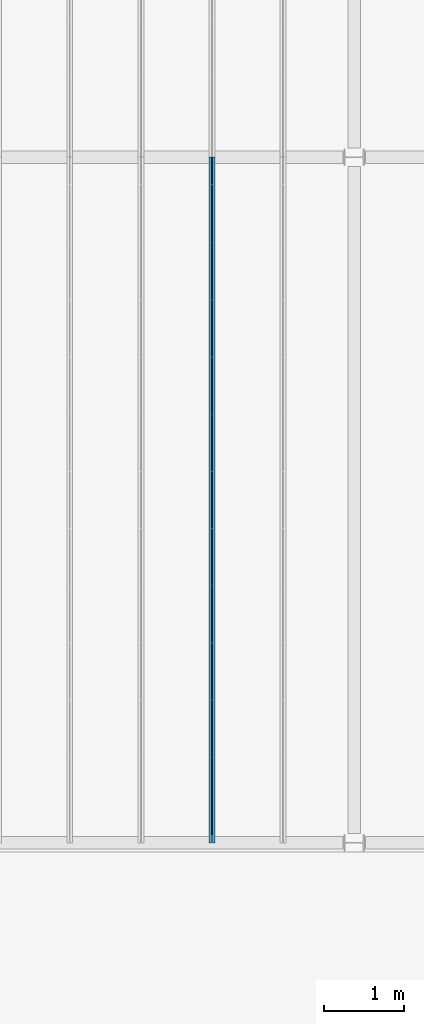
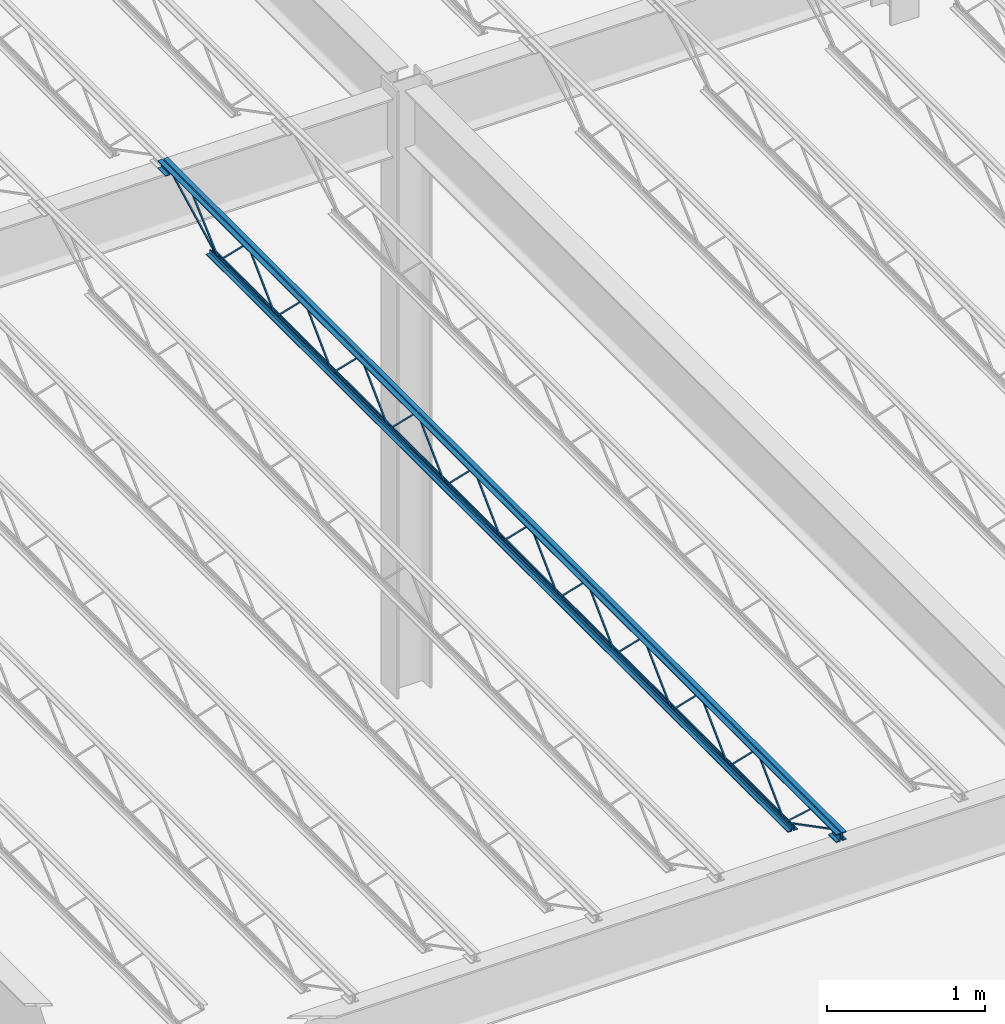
# One storey, part 38 of 119: 1 beam.
"""IFC2X3 building model written with IfcOpenShell, lengths in metres."""

from ifc_helpers import new_model, entity, si_unit, converted_unit, frame, origin, place, context, project, spatial, face_set, surface_model, element, save


model = new_model("IFC2X3")

# Units and contexts
model_context = context("Model", 3, precision=1e-09, world=origin())
plan_context = context("Plan", 3, precision=1e-09, world=origin())
ifc_project = project(units=[si_unit("LENGTHUNIT", "METRE"), si_unit("AREAUNIT", "SQUARE_METRE"), si_unit("VOLUMEUNIT", "CUBIC_METRE"), converted_unit("PLANEANGLEUNIT", "DEGREE", entity("IfcRatioMeasure", 0.01745329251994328), si_unit("PLANEANGLEUNIT", "RADIAN"), dimensions=[0, 0, 0, 0, 0, 0, 0]), si_unit("TIMEUNIT", "SECOND")], contexts=[model_context, plan_context])

# Site, building, storey
site_placement = place(None, origin())
site = spatial("IfcSite", under=ifc_project, at=site_placement, Name="Default", CompositionType="ELEMENT")
building_placement = place(site_placement, origin())
building = spatial("IfcBuilding", under=site, at=building_placement, CompositionType="ELEMENT")
storey_placement = place(building_placement, frame((0.0, 0.0, 4.570000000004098)))
storey = spatial("IfcBuildingStorey", under=building, at=storey_placement, Name="Second Floor", CompositionType="ELEMENT", Elevation=4.570000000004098)

# Beam
beam_placement = place(storey_placement, frame((-28.25425000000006, 10.04000000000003, 4.323999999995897), z_axis=(0.0, 0.0, 1.0), x_axis=(-1.0, 0.0, 0.0)))
element("IfcBeam", 1, at=beam_placement, inside=storey, Name="M_K-Series Bar Joist-Rod Web:14K1:14K1", ObjectType="M_K-Series Bar Joist-Rod Web:14K1", context=model_context, shape_type="SurfaceModel", body=[
    surface_model("IfcFaceBasedSurfaceModel", [(-0.03200000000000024, -2.141200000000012, 0.01110000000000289), (-0.04149999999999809, -2.141200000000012, 0.01110000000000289), (-0.04149999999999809, -2.141200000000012, 0.001600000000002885), (-0.03200000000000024, -2.141200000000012, 0.001600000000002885), (-0.04149999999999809, -2.139961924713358, 0.01110000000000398), (-0.03200000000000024, -2.139961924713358, 0.01110000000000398), (-0.04149999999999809, -2.136088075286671, 0.001600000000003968), (-0.04149999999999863, -1.785138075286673, 0.3449000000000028), (-0.04149999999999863, -1.782661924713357, 0.3449000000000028), (-0.04149999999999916, -1.431711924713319, 0.001600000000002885), (-0.04149999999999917, -1.426600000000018, 0.001600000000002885), (-0.04149999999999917, -1.426600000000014, 0.01110000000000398), (-0.04149999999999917, -1.427838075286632, 0.01110000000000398), (-0.04149999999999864, -1.77878807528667, 0.3544000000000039), (-0.04149999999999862, -1.78901192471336, 0.3544000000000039), (-0.03199999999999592, -2.136088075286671, 0.001600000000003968), (-0.03200000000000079, -1.785138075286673, 0.3449000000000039), (-0.03200000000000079, -1.782661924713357, 0.3449000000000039), (-0.03200000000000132, -1.431711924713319, 0.001600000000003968), (-0.03200000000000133, -1.426600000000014, 0.001600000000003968), (-0.03200000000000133, -1.426600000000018, 0.01110000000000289), (-0.03200000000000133, -1.427838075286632, 0.01110000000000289), (-0.03200000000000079, -1.77878807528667, 0.3544000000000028), (-0.03200000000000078, -1.78901192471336, 0.3544000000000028), (-0.03199999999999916, -2.855800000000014, 0.01110000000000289), (-0.04149999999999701, -2.855800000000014, 0.01110000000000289), (-0.04149999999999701, -2.855800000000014, 0.001600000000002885), (-0.03199999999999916, -2.855800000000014, 0.001600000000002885), (-0.04149999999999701, -2.854561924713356, 0.01110000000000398), (-0.03199999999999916, -2.854561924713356, 0.01110000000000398), (-0.04149999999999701, -2.850688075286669, 0.001600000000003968), (-0.04149999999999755, -2.499738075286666, 0.3449000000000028), (-0.04149999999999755, -2.497261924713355, 0.3449000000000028), (-0.04149999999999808, -2.146311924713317, 0.001600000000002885), (-0.04149999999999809, -2.141200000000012, 0.01110000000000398), (-0.04149999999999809, -2.14243807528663, 0.01110000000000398), (-0.04149999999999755, -2.493388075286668, 0.3544000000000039), (-0.04149999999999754, -2.503611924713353, 0.3544000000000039), (-0.03199999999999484, -2.850688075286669, 0.001600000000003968), (-0.0319999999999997, -2.499738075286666, 0.3449000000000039), (-0.0319999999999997, -2.497261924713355, 0.3449000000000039), (-0.03200000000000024, -2.146311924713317, 0.001600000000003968), (-0.03200000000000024, -2.141200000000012, 0.001600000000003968), (-0.03200000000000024, -2.14243807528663, 0.01110000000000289), (-0.03199999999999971, -2.493388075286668, 0.3544000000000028), (-0.0319999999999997, -2.503611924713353, 0.3544000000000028), (-0.03200000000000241, -3.570400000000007, 0.01110000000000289), (-0.04150000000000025, -3.570400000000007, 0.01110000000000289), (-0.04150000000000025, -3.570400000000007, 0.001600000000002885), (-0.03200000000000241, -3.570400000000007, 0.001600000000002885), (-0.04150000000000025, -3.569161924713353, 0.01110000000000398), (-0.03200000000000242, -3.569161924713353, 0.01110000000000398), (-0.04150000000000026, -3.565288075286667, 0.001600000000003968), (-0.04150000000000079, -3.214338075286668, 0.3449000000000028), (-0.04150000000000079, -3.211861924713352, 0.3449000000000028), (-0.04150000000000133, -2.860911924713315, 0.001600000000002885), (-0.04149999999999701, -2.855800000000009, 0.001600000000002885), (-0.04150000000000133, -2.855800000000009, 0.01110000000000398), (-0.04150000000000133, -2.857038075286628, 0.01110000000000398), (-0.0415000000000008, -3.207988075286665, 0.3544000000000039), (-0.04150000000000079, -3.218211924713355, 0.3544000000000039), (-0.03199999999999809, -3.565288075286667, 0.001600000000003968), (-0.03200000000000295, -3.214338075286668, 0.3449000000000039), (-0.03200000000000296, -3.211861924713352, 0.3449000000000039), (-0.03200000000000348, -2.860911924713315, 0.001600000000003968), (-0.03200000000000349, -2.855800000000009, 0.001600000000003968), (-0.03199999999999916, -2.855800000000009, 0.01110000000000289), (-0.03200000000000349, -2.857038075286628, 0.01110000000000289), (-0.03200000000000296, -3.207988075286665, 0.3544000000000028), (-0.03200000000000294, -3.218211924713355, 0.3544000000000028), (-0.03200000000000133, -4.285000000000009, 0.01110000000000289), (-0.04149999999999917, -4.285000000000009, 0.01110000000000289), (-0.04149999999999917, -4.285000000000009, 0.001600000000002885), (-0.03200000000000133, -4.285000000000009, 0.001600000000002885), (-0.04149999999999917, -4.283761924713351, 0.01110000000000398), (-0.03200000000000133, -4.283761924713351, 0.01110000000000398), (-0.04149999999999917, -4.279888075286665, 0.001600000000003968), (-0.0414999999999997, -3.928938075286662, 0.3449000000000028), (-0.04149999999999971, -3.92646192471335, 0.3449000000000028), (-0.04150000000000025, -3.575511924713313, 0.001600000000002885), (-0.04150000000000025, -3.570400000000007, 0.01110000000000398), (-0.04150000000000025, -3.571638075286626, 0.01110000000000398), (-0.04149999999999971, -3.922588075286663, 0.3544000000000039), (-0.0414999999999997, -3.932811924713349, 0.3544000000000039), (-0.031999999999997, -4.279888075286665, 0.001600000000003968), (-0.03200000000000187, -3.928938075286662, 0.3449000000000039), (-0.03200000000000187, -3.92646192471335, 0.3449000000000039), (-0.0320000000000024, -3.575511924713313, 0.001600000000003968), (-0.03200000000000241, -3.570400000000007, 0.001600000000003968), (-0.03200000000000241, -3.571638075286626, 0.01110000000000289), (-0.03200000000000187, -3.922588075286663, 0.3544000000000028), (-0.03200000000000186, -3.932811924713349, 0.3544000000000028), (-0.03200000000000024, -4.999600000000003, 0.01110000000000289), (-0.04149999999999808, -4.999600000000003, 0.01110000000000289), (-0.04149999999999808, -4.999600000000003, 0.001600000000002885), (-0.03200000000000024, -4.999600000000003, 0.001600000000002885), (-0.04149999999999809, -4.998361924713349, 0.01110000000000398), (-0.03200000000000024, -4.998361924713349, 0.01110000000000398), (-0.04149999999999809, -4.994488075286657, 0.001600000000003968), (-0.04149999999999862, -4.643538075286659, 0.3449000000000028), (-0.04149999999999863, -4.641061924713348, 0.3449000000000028), (-0.04149999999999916, -4.290111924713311, 0.001600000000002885), (-0.04149999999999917, -4.285000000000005, 0.001600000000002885), (-0.04149999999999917, -4.285000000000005, 0.01110000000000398), (-0.04149999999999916, -4.286238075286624, 0.01110000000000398), (-0.04149999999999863, -4.637188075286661, 0.3544000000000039), (-0.04149999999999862, -4.647411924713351, 0.3544000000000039), (-0.03199999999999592, -4.994488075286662, 0.001600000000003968), (-0.03200000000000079, -4.643538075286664, 0.3449000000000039), (-0.03200000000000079, -4.641061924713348, 0.3449000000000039), (-0.03200000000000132, -4.290111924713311, 0.001600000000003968), (-0.03200000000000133, -4.285000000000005, 0.001600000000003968), (-0.03200000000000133, -4.285000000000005, 0.01110000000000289), (-0.03200000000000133, -4.286238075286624, 0.01110000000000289), (-0.03200000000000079, -4.637188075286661, 0.3544000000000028), (-0.03200000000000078, -4.647411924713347, 0.3544000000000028), (-0.03200000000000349, -5.714200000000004, 0.01110000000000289), (-0.04150000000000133, -5.714200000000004, 0.01110000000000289), (-0.04150000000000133, -5.714200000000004, 0.001600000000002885), (-0.03200000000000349, -5.714200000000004, 0.001600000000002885), (-0.04150000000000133, -5.712961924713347, 0.01110000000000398), (-0.03200000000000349, -5.712961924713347, 0.01110000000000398), (-0.04149999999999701, -5.70908807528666, 0.001600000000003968), (-0.04149999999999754, -5.358138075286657, 0.3449000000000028), (-0.04149999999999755, -5.355661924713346, 0.3449000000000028), (-0.04149999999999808, -5.004711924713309, 0.001600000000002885), (-0.04150000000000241, -4.999600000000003, 0.01110000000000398), (-0.04150000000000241, -5.000838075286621, 0.01110000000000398), (-0.04150000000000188, -5.351788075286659, 0.3544000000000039), (-0.04150000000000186, -5.362011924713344, 0.3544000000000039), (-0.03199999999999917, -5.70908807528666, 0.001600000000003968), (-0.03200000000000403, -5.358138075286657, 0.3449000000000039), (-0.03200000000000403, -5.355661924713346, 0.3449000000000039), (-0.03200000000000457, -5.004711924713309, 0.001600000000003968), (-0.03200000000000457, -4.999600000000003, 0.001600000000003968), (-0.03200000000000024, -5.000838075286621, 0.01110000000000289), (-0.03199999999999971, -5.351788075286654, 0.3544000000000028), (-0.0319999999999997, -5.362011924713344, 0.3544000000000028), (-0.03200000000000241, -6.428799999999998, 0.01110000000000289), (-0.04150000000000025, -6.428799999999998, 0.01110000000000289), (-0.04150000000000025, -6.428799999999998, 0.001600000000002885), (-0.03200000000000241, -6.428799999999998, 0.001600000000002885), (-0.04150000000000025, -6.42756192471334, 0.01110000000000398), (-0.03200000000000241, -6.42756192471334, 0.01110000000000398), (-0.04150000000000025, -6.423688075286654, 0.001600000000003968), (-0.04150000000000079, -6.072738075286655, 0.3449000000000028), (-0.04150000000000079, -6.070261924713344, 0.3449000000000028), (-0.04150000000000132, -5.719311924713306, 0.001600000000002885), (-0.04150000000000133, -5.714199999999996, 0.001600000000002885), (-0.04150000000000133, -5.714199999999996, 0.01110000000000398), (-0.04150000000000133, -5.715438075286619, 0.01110000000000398), (-0.04150000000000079, -6.066388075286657, 0.3544000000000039), (-0.04150000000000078, -6.076611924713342, 0.3544000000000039), (-0.03199999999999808, -6.423688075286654, 0.001600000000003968), (-0.03200000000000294, -6.072738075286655, 0.3449000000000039), (-0.03200000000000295, -6.070261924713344, 0.3449000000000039), (-0.03200000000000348, -5.719311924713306, 0.001600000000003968), (-0.03200000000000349, -5.714199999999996, 0.001600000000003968), (-0.03200000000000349, -5.714199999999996, 0.01110000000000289), (-0.03200000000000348, -5.715438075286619, 0.01110000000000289), (-0.03200000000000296, -6.066388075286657, 0.3544000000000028), (-0.03200000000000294, -6.076611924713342, 0.3544000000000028), (-0.03200000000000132, -7.143399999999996, 0.01110000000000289), (-0.04149999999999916, -7.143399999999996, 0.01110000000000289), (-0.04149999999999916, -7.143399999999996, 0.001600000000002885), (-0.03200000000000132, -7.143399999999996, 0.001600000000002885), (-0.04149999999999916, -7.142161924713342, 0.01110000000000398), (-0.03200000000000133, -7.142161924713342, 0.01110000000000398), (-0.04149999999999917, -7.138288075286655, 0.001600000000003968), (-0.0414999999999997, -6.787338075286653, 0.3449000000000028), (-0.0414999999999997, -6.784861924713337, 0.3449000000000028), (-0.04150000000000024, -6.4339119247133, 0.001600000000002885), (-0.04150000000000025, -6.428799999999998, 0.01110000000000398), (-0.04150000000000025, -6.430038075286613, 0.01110000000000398), (-0.04149999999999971, -6.780988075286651, 0.3544000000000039), (-0.0414999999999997, -6.79121192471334, 0.3544000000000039), (-0.031999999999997, -7.138288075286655, 0.001600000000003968), (-0.03200000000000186, -6.787338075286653, 0.3449000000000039), (-0.03200000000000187, -6.784861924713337, 0.3449000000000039), (-0.0320000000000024, -6.4339119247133, 0.001600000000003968), (-0.03200000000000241, -6.428799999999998, 0.001600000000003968), (-0.0320000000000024, -6.430038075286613, 0.01110000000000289), (-0.03200000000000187, -6.780988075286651, 0.3544000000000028), (-0.03200000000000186, -6.79121192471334, 0.3544000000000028), (-0.03200000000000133, -1.426600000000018, 0.01109999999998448), (-0.04149999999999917, -1.426600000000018, 0.01109999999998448), (-0.04149999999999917, -1.426600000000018, 0.001599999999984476), (-0.03200000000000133, -1.426600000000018, 0.001599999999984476), (-0.04149999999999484, -1.42536192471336, 0.01109999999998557), (-0.031999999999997, -1.42536192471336, 0.01109999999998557), (-0.04149999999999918, -1.421488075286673, 0.001599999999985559), (-0.04149999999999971, -1.07053807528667, 0.3448999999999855), (-0.04149999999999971, -1.068061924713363, 0.3448999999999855), (-0.04150000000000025, -0.7171119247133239, 0.001599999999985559), (-0.04150000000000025, -0.712000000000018, 0.001599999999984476), (-0.04150000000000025, -0.7120000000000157, 0.01109999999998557), (-0.04150000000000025, -0.7132380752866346, 0.01109999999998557), (-0.04149999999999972, -1.064188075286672, 0.3543999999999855), (-0.0414999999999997, -1.074411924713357, 0.3543999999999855), (-0.031999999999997, -1.421488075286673, 0.001599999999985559), (-0.03199999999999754, -1.07053807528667, 0.3448999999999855), (-0.03199999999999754, -1.068061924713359, 0.3448999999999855), (-0.03199999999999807, -0.7171119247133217, 0.001599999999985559), (-0.03199999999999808, -0.7120000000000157, 0.001599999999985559), (-0.03200000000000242, -0.712000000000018, 0.01109999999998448), (-0.03199999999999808, -0.7132380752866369, 0.01109999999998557), (-0.03199999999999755, -1.064188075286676, 0.3543999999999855), (-0.03199999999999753, -1.074411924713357, 0.3543999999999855), (-0.03200000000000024, -7.857999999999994, 0.01110000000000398), (-0.04149999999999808, -7.857999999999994, 0.01110000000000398), (-0.04149999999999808, -7.857999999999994, 0.001600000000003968), (-0.03200000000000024, -7.857999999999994, 0.001600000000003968), (-0.04149999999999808, -7.856761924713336, 0.01110000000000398), (-0.03200000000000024, -7.856761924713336, 0.01110000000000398), (-0.04149999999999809, -7.852888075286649, 0.001600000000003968), (-0.04149999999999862, -7.501938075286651, 0.3449000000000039), (-0.04149999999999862, -7.499461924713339, 0.3449000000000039), (-0.04149999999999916, -7.148511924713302, 0.001600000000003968), (-0.04149999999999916, -7.143399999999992, 0.001600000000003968), (-0.04149999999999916, -7.143399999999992, 0.01110000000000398), (-0.04149999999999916, -7.144638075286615, 0.01110000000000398), (-0.04149999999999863, -7.495588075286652, 0.3544000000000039), (-0.04149999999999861, -7.505811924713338, 0.3544000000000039), (-0.03199999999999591, -7.852888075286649, 0.001600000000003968), (-0.03200000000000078, -7.501938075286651, 0.3449000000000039), (-0.03200000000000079, -7.499461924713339, 0.3449000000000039), (-0.03200000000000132, -7.148511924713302, 0.001600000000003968), (-0.03200000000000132, -7.143399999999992, 0.001600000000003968), (-0.03200000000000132, -7.143399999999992, 0.01110000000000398), (-0.03200000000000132, -7.144638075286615, 0.01110000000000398), (-0.03200000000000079, -7.495588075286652, 0.3544000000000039), (-0.03200000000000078, -7.505811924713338, 0.3544000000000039), (-0.04150000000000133, 0.0, 0.3559999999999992), (-0.07350000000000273, 0.0, 0.3559999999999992), (-0.07350000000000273, 0.0, 0.3494999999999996), (-0.04799999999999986, 0.0, 0.3494999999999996), (-0.04799999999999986, 0.0, 0.3239999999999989), (-0.04150000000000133, 0.0, 0.3239999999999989), (-0.03200000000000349, 0.0, 0.3559999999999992), (-0.03200000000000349, 0.0, 0.3239999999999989), (-0.02550000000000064, 0.0, 0.3239999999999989), (-0.02550000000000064, 0.0, 0.3494999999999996), (0.0, 0.0, 0.3494999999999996), (0.0, 0.0, 0.3559999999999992), (-0.04149999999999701, -8.569999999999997, 0.3559999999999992), (-0.07349999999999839, -8.569999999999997, 0.3559999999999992), (-0.07349999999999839, -8.569999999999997, 0.3494999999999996), (-0.04799999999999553, -8.569999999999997, 0.3494999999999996), (-0.04799999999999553, -8.569999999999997, 0.3239999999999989), (-0.04149999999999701, -8.569999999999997, 0.3239999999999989), (-0.03199999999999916, -8.569999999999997, 0.3559999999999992), (-0.03199999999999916, -8.569999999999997, 0.3239999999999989), (-0.02549999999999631, -8.569999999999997, 0.3239999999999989), (-0.02549999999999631, -8.569999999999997, 0.3494999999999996), (0.0, -8.569999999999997, 0.3494999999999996), (0.0, -8.569999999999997, 0.3559999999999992), (-0.03199999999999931, -8.470000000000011, 0.2924999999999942), (0.0, -8.470000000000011, 0.2924999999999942), (0.0, -8.470000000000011, 0.2989999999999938), (-0.02550000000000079, -8.470000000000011, 0.2989999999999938), (-0.02550000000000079, -8.470000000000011, 0.3239999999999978), (-0.03199999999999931, -8.470000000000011, 0.3239999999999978), (-0.07349999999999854, -8.470000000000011, 0.2924999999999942), (-0.04149999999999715, -8.470000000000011, 0.2924999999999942), (-0.04149999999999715, -8.470000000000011, 0.3239999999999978), (-0.048, -8.470000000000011, 0.3239999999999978), (-0.048, -8.470000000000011, 0.2989999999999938), (-0.07349999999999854, -8.470000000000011, 0.2989999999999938), (-0.03199999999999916, -8.569999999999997, 0.2924999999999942), (0.0, -8.569999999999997, 0.2924999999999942), (0.0, -8.569999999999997, 0.2989999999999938), (-0.02550000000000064, -8.569999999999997, 0.2989999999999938), (-0.02550000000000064, -8.569999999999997, 0.3239999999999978), (-0.03199999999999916, -8.569999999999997, 0.3239999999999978), (-0.07349999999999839, -8.569999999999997, 0.2924999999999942), (-0.04149999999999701, -8.569999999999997, 0.2924999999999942), (-0.04149999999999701, -8.569999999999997, 0.3239999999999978), (-0.04799999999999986, -8.569999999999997, 0.3239999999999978), (-0.04799999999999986, -8.569999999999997, 0.2989999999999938), (-0.07349999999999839, -8.569999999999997, 0.2989999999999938), (-0.04150000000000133, 0.0, 0.2924999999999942), (-0.04150000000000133, 0.0, 0.3239999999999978), (-0.04800000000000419, 0.0, 0.3239999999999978), (-0.04800000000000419, 0.0, 0.2989999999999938), (-0.07350000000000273, 0.0, 0.2989999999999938), (-0.07350000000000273, 0.0, 0.2924999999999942), (-0.03200000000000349, 0.0, 0.2924999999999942), (0.0, 0.0, 0.2924999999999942), (0.0, 0.0, 0.2989999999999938), (-0.02550000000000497, 0.0, 0.2989999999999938), (-0.02550000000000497, 0.0, 0.3239999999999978), (-0.03200000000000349, 0.0, 0.3239999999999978), (-0.04150000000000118, -0.09999999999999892, 0.2924999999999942), (-0.04150000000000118, -0.09999999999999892, 0.3239999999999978), (-0.04800000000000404, -0.09999999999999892, 0.3239999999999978), (-0.04800000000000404, -0.09999999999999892, 0.2989999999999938), (-0.07350000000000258, -0.09999999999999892, 0.2989999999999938), (-0.07350000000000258, -0.09999999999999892, 0.2924999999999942), (-0.03200000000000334, -0.09999999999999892, 0.2924999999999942), (0.0, -0.09999999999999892, 0.2924999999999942), (0.0, -0.09999999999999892, 0.2989999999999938), (-0.02550000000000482, -0.09999999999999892, 0.2989999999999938), (-0.02550000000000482, -0.09999999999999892, 0.3239999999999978), (-0.03200000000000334, -0.09999999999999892, 0.3239999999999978), (-0.04150000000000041, -0.6119999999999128, 0.0), (-0.04150000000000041, -0.6119999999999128, 0.03199999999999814), (-0.04799999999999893, -0.6119999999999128, 0.03199999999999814), (-0.04799999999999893, -0.6119999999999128, 0.006499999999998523), (-0.0735000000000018, -0.6119999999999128, 0.006499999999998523), (-0.0735000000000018, -0.6119999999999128, 0.0), (-0.03200000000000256, -0.6119999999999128, 0.0), (0.0, -0.6119999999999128, 0.0), (0.0, -0.6119999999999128, 0.006499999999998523), (-0.02549999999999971, -0.6119999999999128, 0.006499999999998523), (-0.02549999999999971, -0.6119999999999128, 0.03199999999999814), (-0.03200000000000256, -0.6119999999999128, 0.03199999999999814), (-0.04149999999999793, -7.957999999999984, 0.0), (-0.04149999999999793, -7.957999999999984, 0.03199999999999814), (-0.04799999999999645, -7.957999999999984, 0.03199999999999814), (-0.04799999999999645, -7.957999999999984, 0.006499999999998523), (-0.07349999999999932, -7.957999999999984, 0.006499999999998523), (-0.07349999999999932, -7.957999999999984, 0.0), (-0.03200000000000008, -7.957999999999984, 0.0), (0.0, -7.957999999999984, 0.0), (0.0, -7.957999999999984, 0.006499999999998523), (-0.02549999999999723, -7.957999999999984, 0.006499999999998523), (-0.02549999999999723, -7.957999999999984, 0.03199999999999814), (-0.03200000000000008, -7.957999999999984, 0.03199999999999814), (-0.03200000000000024, -7.855811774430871, 0.01056594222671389), (-0.04149999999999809, -7.855811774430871, 0.01056594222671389), (-0.04149999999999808, -7.860188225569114, 0.002134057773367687), (-0.03200000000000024, -7.860188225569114, 0.00213405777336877), (-0.03199999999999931, -8.468840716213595, 0.3287499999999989), (-0.03199999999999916, -8.569999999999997, 0.3287499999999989), (-0.03199999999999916, -8.569999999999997, 0.3192499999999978), (-0.03199999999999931, -8.471159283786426, 0.3192499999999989), (-0.04150000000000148, -8.471159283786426, 0.3192499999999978), (-0.04149999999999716, -8.468840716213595, 0.3287499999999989), (-0.04149999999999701, -8.569999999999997, 0.3287499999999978), (-0.04149999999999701, -8.569999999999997, 0.3192499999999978), (-0.03199999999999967, -8.23525714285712, 0.3417000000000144), (-0.04149999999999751, -8.23525714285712, 0.3417000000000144), (-0.04149999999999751, -8.23525714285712, 0.3322000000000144), (-0.03199999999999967, -8.23525714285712, 0.3322000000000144), (-0.04149999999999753, -8.22072410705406, 0.3417000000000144), (-0.03199999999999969, -8.22072410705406, 0.3417000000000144), (-0.04149999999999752, -8.224390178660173, 0.3322000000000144), (-0.04149999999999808, -7.861190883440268, 0.002831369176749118), (-0.04149999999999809, -7.854809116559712, 0.009868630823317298), (-0.03199999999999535, -8.224390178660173, 0.3322000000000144), (-0.03200000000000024, -7.861190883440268, 0.002831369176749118), (-0.03200000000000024, -7.854809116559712, 0.009868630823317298), (-0.03200000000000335, -0.09781177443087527, 0.3197840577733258), (-0.03200000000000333, -0.1021882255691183, 0.328215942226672), (-0.04150000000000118, -0.1021882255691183, 0.328215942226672), (-0.04150000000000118, -0.09781177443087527, 0.3197840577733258), (-0.03200000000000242, -0.7098117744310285, 0.002134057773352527), (-0.03200000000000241, -0.7141882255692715, 0.01056594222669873), (-0.04150000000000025, -0.7141882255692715, 0.01056594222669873), (-0.04150000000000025, -0.7098117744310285, 0.002134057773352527), (-0.03200000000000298, -0.3369634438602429, 0.3461600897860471), (-0.03200000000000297, -0.3434079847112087, 0.3531399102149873), (-0.04150000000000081, -0.3434079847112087, 0.3531399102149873), (-0.04150000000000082, -0.3369634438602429, 0.3461600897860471), (-0.03200000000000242, -0.7087777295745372, 0.00286008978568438), (-0.03200000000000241, -0.7152222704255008, 0.009839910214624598), (-0.04150000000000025, -0.7152222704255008, 0.009839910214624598), (-0.04150000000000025, -0.7087777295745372, 0.00286008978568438)], [face_set([[[0, 1, 2, 3]], [[1, 4, 5, 0]], [[2, 6, 7, 8, 9, 10, 11, 12, 13, 14, 4, 1]], [[3, 2, 6, 15]], [[0, 3, 15, 16, 17, 18, 19, 20, 21, 22, 23, 5]], [[4, 5, 23, 14]], [[15, 16, 7, 6]], [[14, 13, 22, 23]], [[16, 7, 8, 17]], [[13, 12, 21, 22]], [[17, 8, 9, 18]], [[20, 11, 10, 19]], [[12, 11, 20, 21]], [[18, 9, 10, 19]]]), face_set([[[24, 25, 26, 27]], [[25, 28, 29, 24]], [[26, 30, 31, 32, 33, 2, 34, 35, 36, 37, 28, 25]], [[27, 26, 30, 38]], [[24, 27, 38, 39, 40, 41, 42, 0, 43, 44, 45, 29]], [[28, 29, 45, 37]], [[38, 39, 31, 30]], [[37, 36, 44, 45]], [[39, 31, 32, 40]], [[36, 35, 43, 44]], [[40, 32, 33, 41]], [[0, 34, 2, 42]], [[35, 34, 0, 43]], [[41, 33, 2, 42]]]), face_set([[[46, 47, 48, 49]], [[47, 50, 51, 46]], [[48, 52, 53, 54, 55, 56, 57, 58, 59, 60, 50, 47]], [[49, 48, 52, 61]], [[46, 49, 61, 62, 63, 64, 65, 66, 67, 68, 69, 51]], [[50, 51, 69, 60]], [[61, 62, 53, 52]], [[60, 59, 68, 69]], [[62, 53, 54, 63]], [[59, 58, 67, 68]], [[63, 54, 55, 64]], [[66, 57, 56, 65]], [[58, 57, 66, 67]], [[64, 55, 56, 65]]]), face_set([[[70, 71, 72, 73]], [[71, 74, 75, 70]], [[72, 76, 77, 78, 79, 48, 80, 81, 82, 83, 74, 71]], [[73, 72, 76, 84]], [[70, 73, 84, 85, 86, 87, 88, 46, 89, 90, 91, 75]], [[74, 75, 91, 83]], [[84, 85, 77, 76]], [[83, 82, 90, 91]], [[85, 77, 78, 86]], [[82, 81, 89, 90]], [[86, 78, 79, 87]], [[46, 80, 48, 88]], [[81, 80, 46, 89]], [[87, 79, 48, 88]]]), face_set([[[92, 93, 94, 95]], [[93, 96, 97, 92]], [[94, 98, 99, 100, 101, 102, 103, 104, 105, 106, 96, 93]], [[95, 94, 98, 107]], [[92, 95, 107, 108, 109, 110, 111, 112, 113, 114, 115, 97]], [[96, 97, 115, 106]], [[107, 108, 99, 98]], [[106, 105, 114, 115]], [[108, 99, 100, 109]], [[105, 104, 113, 114]], [[109, 100, 101, 110]], [[112, 103, 102, 111]], [[104, 103, 112, 113]], [[110, 101, 102, 111]]]), face_set([[[116, 117, 118, 119]], [[117, 120, 121, 116]], [[118, 122, 123, 124, 125, 94, 126, 127, 128, 129, 120, 117]], [[119, 118, 122, 130]], [[116, 119, 130, 131, 132, 133, 134, 92, 135, 136, 137, 121]], [[120, 121, 137, 129]], [[130, 131, 123, 122]], [[129, 128, 136, 137]], [[131, 123, 124, 132]], [[128, 127, 135, 136]], [[132, 124, 125, 133]], [[92, 126, 94, 134]], [[127, 126, 92, 135]], [[133, 125, 94, 134]]]), face_set([[[138, 139, 140, 141]], [[139, 142, 143, 138]], [[140, 144, 145, 146, 147, 148, 149, 150, 151, 152, 142, 139]], [[141, 140, 144, 153]], [[138, 141, 153, 154, 155, 156, 157, 158, 159, 160, 161, 143]], [[142, 143, 161, 152]], [[153, 154, 145, 144]], [[152, 151, 160, 161]], [[154, 145, 146, 155]], [[151, 150, 159, 160]], [[155, 146, 147, 156]], [[158, 149, 148, 157]], [[150, 149, 158, 159]], [[156, 147, 148, 157]]]), face_set([[[162, 163, 164, 165]], [[163, 166, 167, 162]], [[164, 168, 169, 170, 171, 140, 172, 173, 174, 175, 166, 163]], [[165, 164, 168, 176]], [[162, 165, 176, 177, 178, 179, 180, 138, 181, 182, 183, 167]], [[166, 167, 183, 175]], [[176, 177, 169, 168]], [[175, 174, 182, 183]], [[177, 169, 170, 178]], [[174, 173, 181, 182]], [[178, 170, 171, 179]], [[138, 172, 140, 180]], [[173, 172, 138, 181]], [[179, 171, 140, 180]]]), face_set([[[184, 185, 186, 187]], [[185, 188, 189, 184]], [[186, 190, 191, 192, 193, 194, 195, 196, 197, 198, 188, 185]], [[187, 186, 190, 199]], [[184, 187, 199, 200, 201, 202, 203, 204, 205, 206, 207, 189]], [[188, 189, 207, 198]], [[199, 200, 191, 190]], [[198, 197, 206, 207]], [[200, 191, 192, 201]], [[197, 196, 205, 206]], [[201, 192, 193, 202]], [[204, 195, 194, 203]], [[196, 195, 204, 205]], [[202, 193, 194, 203]]]), face_set([[[208, 209, 210, 211]], [[209, 212, 213, 208]], [[210, 214, 215, 216, 217, 218, 219, 220, 221, 222, 212, 209]], [[211, 210, 214, 223]], [[208, 211, 223, 224, 225, 226, 227, 228, 229, 230, 231, 213]], [[212, 213, 231, 222]], [[223, 224, 215, 214]], [[222, 221, 230, 231]], [[224, 215, 216, 225]], [[221, 220, 229, 230]], [[225, 216, 217, 226]], [[228, 219, 218, 227]], [[220, 219, 228, 229]], [[226, 217, 218, 227]]]), face_set([[[232, 233, 234, 235, 236, 237]], [[238, 239, 240, 241, 242, 243]], [[244, 245, 246, 247, 248, 249]], [[250, 251, 252, 253, 254, 255]], [[237, 232, 244, 249]], [[236, 237, 249, 248]], [[235, 247, 248, 236]], [[234, 235, 247, 246]], [[233, 245, 246, 234]], [[232, 244, 245, 233]], [[243, 255, 250, 238]], [[242, 243, 255, 254]], [[241, 242, 254, 253]], [[240, 241, 253, 252]], [[239, 240, 252, 251]], [[238, 250, 251, 239]]]), face_set([[[256, 257, 258, 259, 260, 261]], [[262, 263, 264, 265, 266, 267]], [[268, 269, 270, 271, 272, 273]], [[274, 275, 276, 277, 278, 279]], [[261, 273, 268, 256]], [[260, 272, 273, 261]], [[259, 260, 272, 271]], [[258, 270, 271, 259]], [[257, 258, 270, 269]], [[256, 257, 269, 268]], [[267, 279, 274, 262]], [[266, 278, 279, 267]], [[265, 277, 278, 266]], [[264, 276, 277, 265]], [[263, 264, 276, 275]], [[262, 263, 275, 274]]]), face_set([[[280, 281, 282, 283, 284, 285]], [[286, 287, 288, 289, 290, 291]], [[292, 293, 294, 295, 296, 297]], [[298, 299, 300, 301, 302, 303]], [[285, 280, 292, 297]], [[284, 296, 297, 285]], [[283, 295, 296, 284]], [[282, 294, 295, 283]], [[281, 293, 294, 282]], [[280, 281, 293, 292]], [[291, 303, 298, 286]], [[290, 302, 303, 291]], [[289, 290, 302, 301]], [[288, 300, 301, 289]], [[287, 288, 300, 299]], [[286, 287, 299, 298]]]), face_set([[[304, 305, 306, 307, 308, 309]], [[310, 311, 312, 313, 314, 315]], [[316, 317, 318, 319, 320, 321]], [[322, 323, 324, 325, 326, 327]], [[309, 304, 316, 321]], [[308, 320, 321, 309]], [[307, 319, 320, 308]], [[306, 318, 319, 307]], [[305, 317, 318, 306]], [[304, 305, 317, 316]], [[315, 327, 322, 310]], [[314, 326, 327, 315]], [[313, 314, 326, 325]], [[312, 324, 325, 313]], [[311, 312, 324, 323]], [[310, 311, 323, 322]]]), face_set([[[328, 329, 330, 331]], [[331, 328, 332, 333, 334, 335]], [[330, 331, 335, 336]], [[329, 337, 338, 339, 336, 330]], [[328, 332, 337, 329]], [[333, 338, 339, 334]], [[336, 335, 334, 339]], [[332, 333, 338, 337]]]), face_set([[[340, 341, 342, 343]], [[341, 344, 345, 340]], [[342, 346, 347, 348, 344, 341]], [[343, 342, 346, 349]], [[340, 343, 349, 350, 351, 345]], [[351, 348, 347, 350]], [[344, 348, 351, 345]], [[349, 346, 347, 350]]]), face_set([[[352, 353, 354, 355]], [[356, 357, 358, 359]], [[355, 352, 356, 359]], [[354, 358, 359, 355]], [[353, 357, 358, 354]], [[352, 353, 357, 356]]]), face_set([[[360, 361, 362, 363]], [[364, 365, 366, 367]], [[363, 367, 364, 360]], [[362, 366, 367, 363]], [[361, 362, 366, 365]], [[360, 361, 365, 364]]])]),
])

save(model, "model.ifc")
